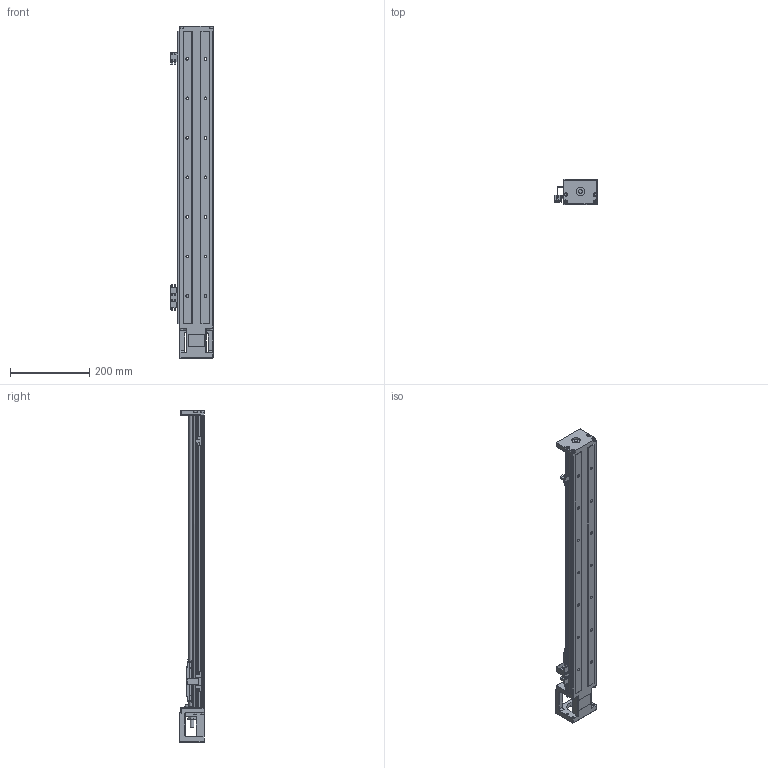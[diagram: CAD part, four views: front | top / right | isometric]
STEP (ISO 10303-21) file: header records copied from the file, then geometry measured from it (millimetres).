
FILE_DESCRIPTION (( 'STEP AP214' ), '1' );
FILE_NAME ('SFKK86-740A1-F0.STEP', '2022-05-05T11:52:11', ( '微软用户' ), ( '微软中国' ), 'SwSTEP 2.0', 'SolidWorks 2018', '' );
FILE_SCHEMA (( 'AUTOMOTIVE_DESIGN' ));
Length unit declared in the file: millimetre
Products named in the file (8): SFKK86-A1; SFKK86-F0_KKR86-ZT-P-740; 极限轨道与开关固定座组合_740; SFKK86-740A1-F0; 开关固定座：KK-674S2-F; 不带盖挡光片：KK-86-S2-D2; SFKK86-LR 憤癹寢耋_740; SX674嫖萇羲壽
Assembly tree (10 placements, depth 3):
  SFKK86-740A1-F0
    SFKK86-F0_KKR86-ZT-P-740
    SFKK86-A1
    极限轨道与开关固定座组合_740
      SFKK86-LR 憤癹寢耋_740
      开关固定座：KK-674S2-F  x2
    不带盖挡光片：KK-86-S2-D2
    SX674嫖萇羲壽  x3
Bounding box: 108.25 x 64 x 840 mm (x, y, z)
Volume: 1550595 mm3; surface area: 392270.9 mm2
Topology: 26 solids, 26 shells, 1515 faces, 3913 edges, 2447 vertices
Faces by surface type: plane 730, cylinder 549, cone 158, torus 47, sphere 23, bspline 8
Entity records: 52961 total; most frequent: CARTESIAN_POINT 12702, DIRECTION 7341, ORIENTED_EDGE 7068, EDGE_CURVE 3534, AXIS2_PLACEMENT_3D 2588, VERTEX_POINT 2253, VECTOR 2165, LINE 2165
